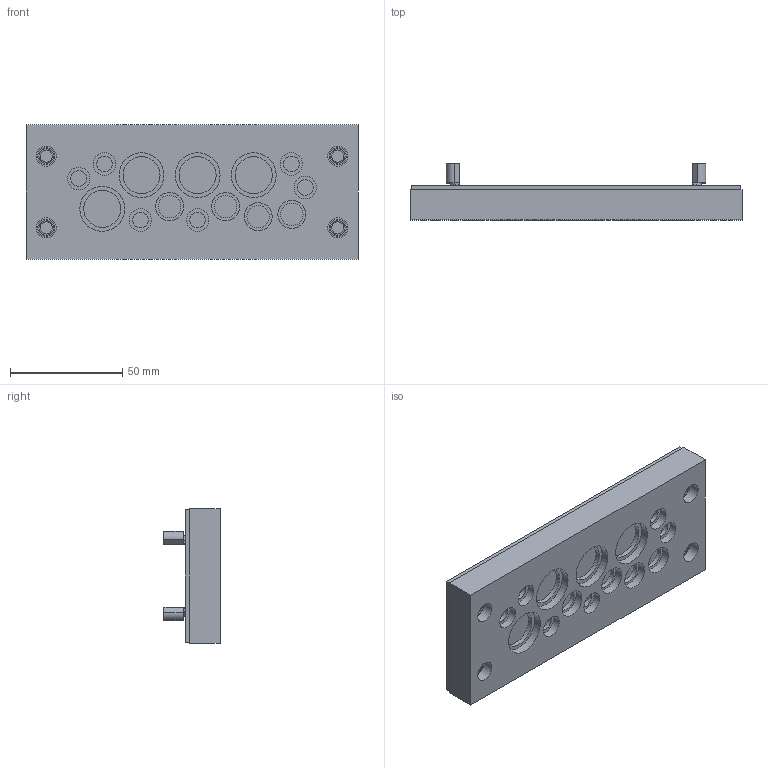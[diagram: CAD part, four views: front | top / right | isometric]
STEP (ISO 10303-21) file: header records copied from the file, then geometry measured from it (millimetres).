
FILE_DESCRIPTION( ( 'STEP AP214' ), '1' );
FILE_NAME( 'p:/temp/worker_133/temp/exporttempdir_3152_71_BjQ87/format_0/CEP2414(0).stp', '2021-03-15T14:29:59', ( 'License CC BY-ND 4.0' ), ( 'CADENAS' ), ' ', 'PARTsolutions', ' ' );
FILE_SCHEMA( ( 'AUTOMOTIVE_DESIGN { 1 0 10303 214 1 1 1 1 }' ) );
Length unit declared in the file: millimetre
Products named in the file (1): _CEP2414(0)
Bounding box: 148 x 25 x 60 mm (x, y, z)
Volume: 97007.5 mm3; surface area: 33557 mm2
Topology: 1 solids, 1 shells, 176 faces, 350 edges, 244 vertices
Faces by surface type: plane 106, cylinder 70
Full cylindrical faces by diameter (mm): 5.5 x8, 6.5 x4, 7 x6, 7.5 x4, 9 x4, 10 x16, 12.5 x8, 16.5 x4, 20 x8
Entity records: 5456 total; most frequent: DIRECTION 750, CARTESIAN_POINT 645, ORIENTED_EDGE 512, AXIS2_PLACEMENT_3D 317, EDGE_LOOP 306, EDGE_CURVE 256, FACE_OUTER_BOUND 238, VERTEX_POINT 212
